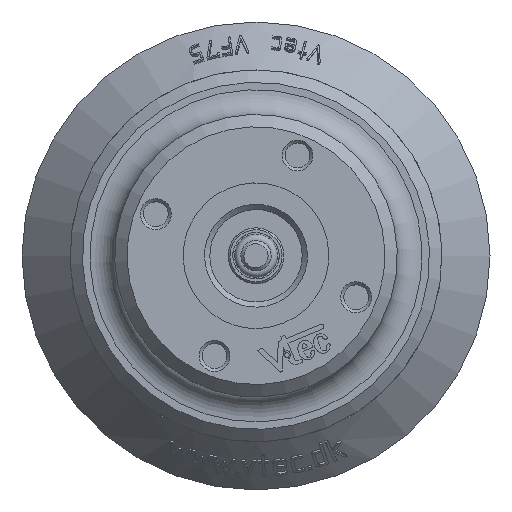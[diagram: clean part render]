
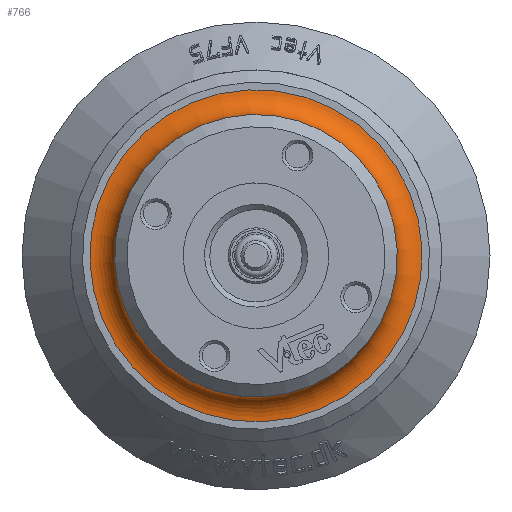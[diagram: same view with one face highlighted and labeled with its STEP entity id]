
A CAD part, top view. The second image highlights one B-rep face of the part: STEP entity #766.
In plain terms, the highlighted toroidal (fillet/blend) face has major radius 26.8 mm and minor radius 4 mm.
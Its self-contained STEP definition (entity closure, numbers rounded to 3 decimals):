
#766 = ADVANCED_FACE( '', ( #1718, #1719 ), #1720, .F. );
#1718 = FACE_OUTER_BOUND( '', #6382, .T. );
#1719 = FACE_OUTER_BOUND( '', #6383, .T. );
#1720 = TOROIDAL_SURFACE( '', #6384, 26.8, 4. );
#6382 = EDGE_LOOP( '', ( #8933 ) );
#6383 = EDGE_LOOP( '', ( #8934 ) );
#6384 = AXIS2_PLACEMENT_3D( '', #8935, #8936, #8937 );
#8933 = ORIENTED_EDGE( '', *, *, #10168, .T. );
#8934 = ORIENTED_EDGE( '', *, *, #10113, .F. );
#8935 = CARTESIAN_POINT( '', ( 0., 0., 2.25 ) );
#8936 = DIRECTION( '', ( 0., 0., 1. ) );
#8937 = DIRECTION( '', ( 1., 0., 0. ) );
#10113 = EDGE_CURVE( '', #11563, #11563, #11564, .T. );
#10168 = EDGE_CURVE( '', #11647, #11647, #11648, .T. );
#11563 = VERTEX_POINT( '', #14825 );
#11564 = CIRCLE( '', #14826, 22.8 );
#11647 = VERTEX_POINT( '', #14944 );
#11648 = CIRCLE( '', #14945, 26.8 );
#14825 = CARTESIAN_POINT( '', ( 22.8, 0., 2.25 ) );
#14826 = AXIS2_PLACEMENT_3D( '', #15949, #15950, #15951 );
#14944 = CARTESIAN_POINT( '', ( 26.8, 0., -1.75 ) );
#14945 = AXIS2_PLACEMENT_3D( '', #16044, #16045, #16046 );
#15949 = CARTESIAN_POINT( '', ( 0., 0., 2.25 ) );
#15950 = DIRECTION( '', ( 0., 0., 1. ) );
#15951 = DIRECTION( '', ( 1., 0., 0. ) );
#16044 = CARTESIAN_POINT( '', ( 0., 0., -1.75 ) );
#16045 = DIRECTION( '', ( 0., 0., 1. ) );
#16046 = DIRECTION( '', ( 1., 0., 0. ) );
